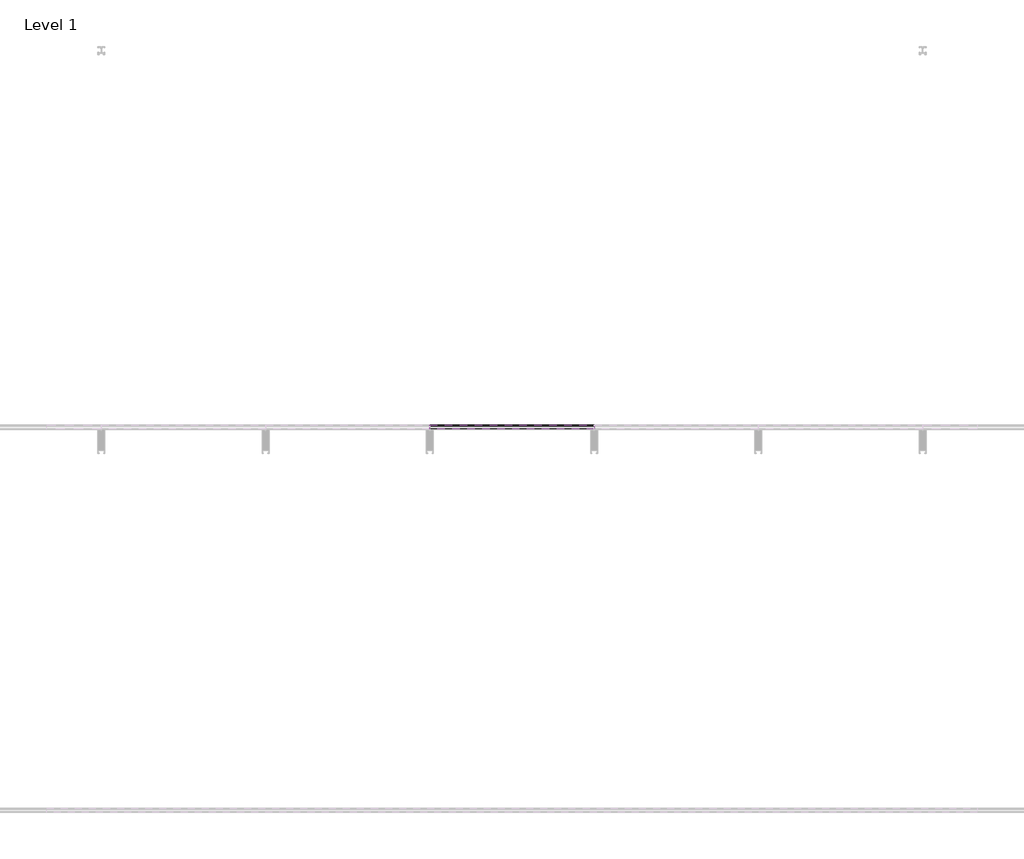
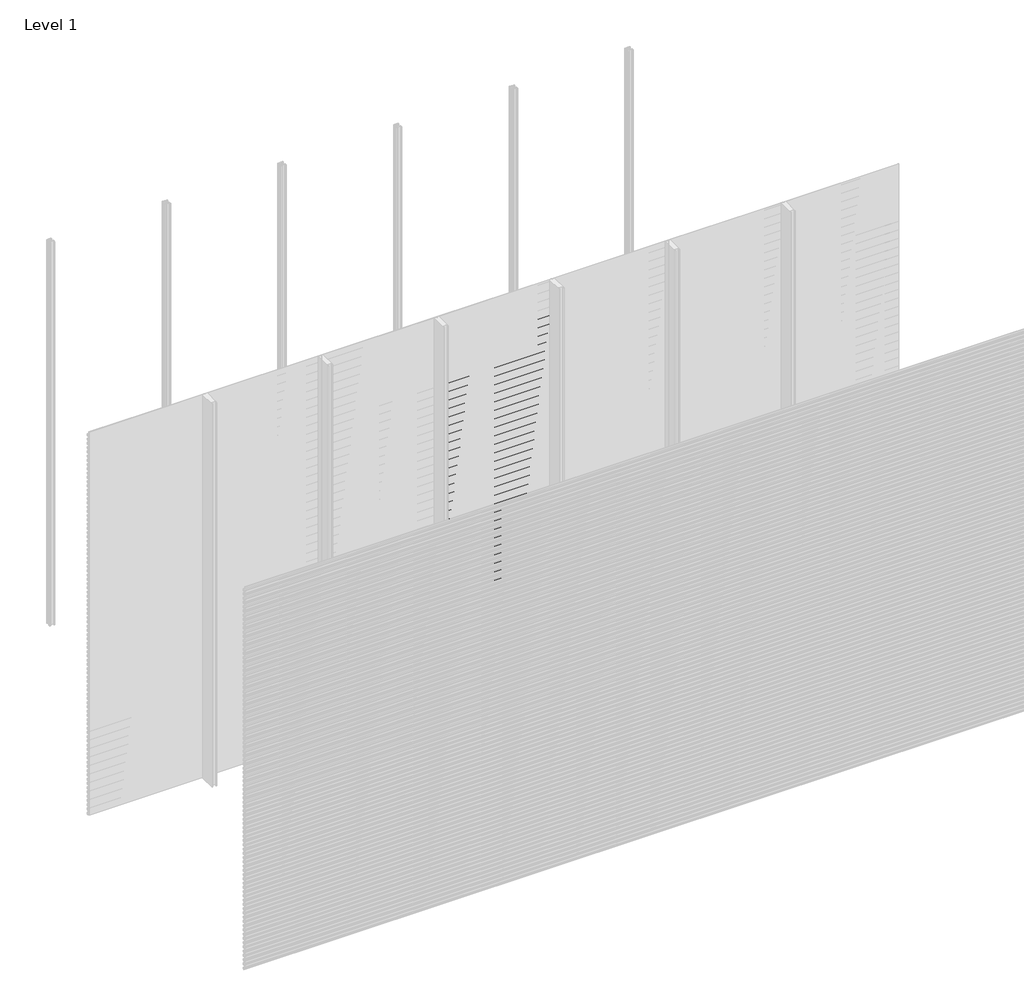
# One storey, part 18 of 96: 77 proxies.
"""IFC4 building model written with IfcOpenShell, lengths in millimetres."""

from ifc_helpers import new_model, si_unit, frame, origin, place, context, project, spatial, polyline, outline, extrude, element, save

model = new_model("IFC4")

# Units and contexts
model_context = context("Model", 3, world=origin())
ifc_project = project(units=[si_unit("LENGTHUNIT", "METRE", prefix="MILLI")], contexts=[model_context])

# Site, building, storey
site = spatial("IfcSite", under=ifc_project)
building = spatial("IfcBuilding", under=site)
storey = spatial("IfcBuildingStorey", under=building, Name="Level 1", Elevation=0.0)

# Proxies
placement = place(None, origin())
element("IfcBuildingElementProxy", 1, Name="Wall Sweeps", at=placement, inside=storey, context=model_context, shape_type="SweptSolid", body=[
    extrude(outline(polyline([(-47977.6, 2705.3655033), (-47977.6, 2691.0779188), (-47982.4114965, 2688.3), (-47982.4114965, 2689.5701706), (-47978.85, 2691.6264016), (-47978.85, 2704.6437382), (-47998.0, 2715.7000799), (-47998.0, 2730.6), (-47996.75, 2730.6), (-47996.75, 2716.4217609), (-47977.6, 2705.3655033)])), frame((2571.4285714, 0.0, 0.0), z_axis=(1.0, 0.0, 0.0), x_axis=(0.0, 1.0, 0.0)), (0.0, 0.0, 1.0), 857.1428571),
])
element("IfcBuildingElementProxy", 2, Name="Wall Sweeps", at=placement, inside=storey, context=model_context, shape_type="SweptSolid", body=[
    extrude(outline(polyline([(-47977.6, 2672.0655033), (-47977.6, 2657.7779188), (-47982.4114965, 2655.0), (-47982.4114965, 2656.2701706), (-47978.85, 2658.3264016), (-47978.85, 2671.3437382), (-47998.0, 2682.4000799), (-47998.0, 2697.3), (-47996.75, 2697.3), (-47996.75, 2683.1217609), (-47977.6, 2672.0655033)])), frame((2571.4285714, 0.0, 0.0), z_axis=(1.0, 0.0, 0.0), x_axis=(0.0, 1.0, 0.0)), (0.0, 0.0, 1.0), 857.1428571),
])
element("IfcBuildingElementProxy", 3, Name="Wall Sweeps", at=placement, inside=storey, context=model_context, shape_type="SweptSolid", body=[
    extrude(outline(polyline([(-47977.6, 2638.7655033), (-47977.6, 2624.4779188), (-47982.4114965, 2621.7), (-47982.4114965, 2622.9701706), (-47978.85, 2625.0264016), (-47978.85, 2638.0437382), (-47998.0, 2649.1000799), (-47998.0, 2664.0), (-47996.75, 2664.0), (-47996.75, 2649.8217609), (-47977.6, 2638.7655033)])), frame((2571.4285714, 0.0, 0.0), z_axis=(1.0, 0.0, 0.0), x_axis=(0.0, 1.0, 0.0)), (0.0, 0.0, 1.0), 857.1428571),
])
element("IfcBuildingElementProxy", 4, Name="Wall Sweeps", at=placement, inside=storey, context=model_context, shape_type="SweptSolid", body=[
    extrude(outline(polyline([(-47977.6, 2605.4655033), (-47977.6, 2591.1779188), (-47982.4114965, 2588.4), (-47982.4114965, 2589.6701706), (-47978.85, 2591.7264016), (-47978.85, 2604.7437382), (-47998.0, 2615.8000799), (-47998.0, 2630.7), (-47996.75, 2630.7), (-47996.75, 2616.5217609), (-47977.6, 2605.4655033)])), frame((2571.4285714, 0.0, 0.0), z_axis=(1.0, 0.0, 0.0), x_axis=(0.0, 1.0, 0.0)), (0.0, 0.0, 1.0), 857.1428571),
])
element("IfcBuildingElementProxy", 5, Name="Wall Sweeps", at=placement, inside=storey, context=model_context, shape_type="SweptSolid", body=[
    extrude(outline(polyline([(-47977.6, 2572.1655033), (-47977.6, 2557.8779188), (-47982.4114965, 2555.1), (-47982.4114965, 2556.3701706), (-47978.85, 2558.4264016), (-47978.85, 2571.4437382), (-47998.0, 2582.5000799), (-47998.0, 2597.4), (-47996.75, 2597.4), (-47996.75, 2583.2217609), (-47977.6, 2572.1655033)])), frame((2571.4285714, 0.0, 0.0), z_axis=(1.0, 0.0, 0.0), x_axis=(0.0, 1.0, 0.0)), (0.0, 0.0, 1.0), 857.1428571),
])
element("IfcBuildingElementProxy", 6, Name="Wall Sweeps", at=placement, inside=storey, context=model_context, shape_type="SweptSolid", body=[
    extrude(outline(polyline([(-47977.6, 2538.8655033), (-47977.6, 2524.5779188), (-47982.4114965, 2521.8), (-47982.4114965, 2523.0701706), (-47978.85, 2525.1264016), (-47978.85, 2538.1437382), (-47998.0, 2549.2000799), (-47998.0, 2564.1), (-47996.75, 2564.1), (-47996.75, 2549.9217609), (-47977.6, 2538.8655033)])), frame((2571.4285714, 0.0, 0.0), z_axis=(1.0, 0.0, 0.0), x_axis=(0.0, 1.0, 0.0)), (0.0, 0.0, 1.0), 857.1428571),
])
element("IfcBuildingElementProxy", 7, Name="Wall Sweeps", at=placement, inside=storey, context=model_context, shape_type="SweptSolid", body=[
    extrude(outline(polyline([(-47977.6, 2505.5655033), (-47977.6, 2491.2779188), (-47982.4114965, 2488.5), (-47982.4114965, 2489.7701706), (-47978.85, 2491.8264016), (-47978.85, 2504.8437382), (-47998.0, 2515.9000799), (-47998.0, 2530.8), (-47996.75, 2530.8), (-47996.75, 2516.6217609), (-47977.6, 2505.5655033)])), frame((2571.4285714, 0.0, 0.0), z_axis=(1.0, 0.0, 0.0), x_axis=(0.0, 1.0, 0.0)), (0.0, 0.0, 1.0), 857.1428571),
])
element("IfcBuildingElementProxy", 8, Name="Wall Sweeps", at=placement, inside=storey, context=model_context, shape_type="SweptSolid", body=[
    extrude(outline(polyline([(-47977.6, 2472.2655033), (-47977.6, 2457.9779188), (-47982.4114965, 2455.2), (-47982.4114965, 2456.4701706), (-47978.85, 2458.5264016), (-47978.85, 2471.5437382), (-47998.0, 2482.6000799), (-47998.0, 2497.5), (-47996.75, 2497.5), (-47996.75, 2483.3217609), (-47977.6, 2472.2655033)])), frame((2571.4285714, 0.0, 0.0), z_axis=(1.0, 0.0, 0.0), x_axis=(0.0, 1.0, 0.0)), (0.0, 0.0, 1.0), 857.1428571),
])
element("IfcBuildingElementProxy", 9, Name="Wall Sweeps", at=placement, inside=storey, context=model_context, shape_type="SweptSolid", body=[
    extrude(outline(polyline([(-47977.6, 2438.9655033), (-47977.6, 2424.6779188), (-47982.4114965, 2421.9), (-47982.4114965, 2423.1701706), (-47978.85, 2425.2264016), (-47978.85, 2438.2437382), (-47998.0, 2449.3000799), (-47998.0, 2464.2), (-47996.75, 2464.2), (-47996.75, 2450.0217609), (-47977.6, 2438.9655033)])), frame((2571.4285714, 0.0, 0.0), z_axis=(1.0, 0.0, 0.0), x_axis=(0.0, 1.0, 0.0)), (0.0, 0.0, 1.0), 857.1428571),
])
element("IfcBuildingElementProxy", 10, Name="Wall Sweeps", at=placement, inside=storey, context=model_context, shape_type="SweptSolid", body=[
    extrude(outline(polyline([(-47977.6, 2405.6655033), (-47977.6, 2391.3779188), (-47982.4114965, 2388.6), (-47982.4114965, 2389.8701706), (-47978.85, 2391.9264016), (-47978.85, 2404.9437382), (-47998.0, 2416.0000799), (-47998.0, 2430.9), (-47996.75, 2430.9), (-47996.75, 2416.7217609), (-47977.6, 2405.6655033)])), frame((2571.4285714, 0.0, 0.0), z_axis=(1.0, 0.0, 0.0), x_axis=(0.0, 1.0, 0.0)), (0.0, 0.0, 1.0), 857.1428571),
])
element("IfcBuildingElementProxy", 11, Name="Wall Sweeps", at=placement, inside=storey, context=model_context, shape_type="SweptSolid", body=[
    extrude(outline(polyline([(-47977.6, 2372.3655033), (-47977.6, 2358.0779188), (-47982.4114965, 2355.3), (-47982.4114965, 2356.5701706), (-47978.85, 2358.6264016), (-47978.85, 2371.6437382), (-47998.0, 2382.7000799), (-47998.0, 2397.6), (-47996.75, 2397.6), (-47996.75, 2383.4217609), (-47977.6, 2372.3655033)])), frame((2571.4285714, 0.0, 0.0), z_axis=(1.0, 0.0, 0.0), x_axis=(0.0, 1.0, 0.0)), (0.0, 0.0, 1.0), 857.1428571),
])
element("IfcBuildingElementProxy", 12, Name="Wall Sweeps", at=placement, inside=storey, context=model_context, shape_type="SweptSolid", body=[
    extrude(outline(polyline([(-47977.6, 2339.0655033), (-47977.6, 2324.7779188), (-47982.4114965, 2322.0), (-47982.4114965, 2323.2701706), (-47978.85, 2325.3264016), (-47978.85, 2338.3437382), (-47998.0, 2349.4000799), (-47998.0, 2364.3), (-47996.75, 2364.3), (-47996.75, 2350.1217609), (-47977.6, 2339.0655033)])), frame((2571.4285714, 0.0, 0.0), z_axis=(1.0, 0.0, 0.0), x_axis=(0.0, 1.0, 0.0)), (0.0, 0.0, 1.0), 857.1428571),
])
element("IfcBuildingElementProxy", 13, Name="Wall Sweeps", at=placement, inside=storey, context=model_context, shape_type="SweptSolid", body=[
    extrude(outline(polyline([(-47977.6, 2305.7655033), (-47977.6, 2291.4779188), (-47982.4114965, 2288.7), (-47982.4114965, 2289.9701706), (-47978.85, 2292.0264016), (-47978.85, 2305.0437382), (-47998.0, 2316.1000799), (-47998.0, 2331.0), (-47996.75, 2331.0), (-47996.75, 2316.8217609), (-47977.6, 2305.7655033)])), frame((2571.4285714, 0.0, 0.0), z_axis=(1.0, 0.0, 0.0), x_axis=(0.0, 1.0, 0.0)), (0.0, 0.0, 1.0), 857.1428571),
])
element("IfcBuildingElementProxy", 14, Name="Wall Sweeps", at=placement, inside=storey, context=model_context, shape_type="SweptSolid", body=[
    extrude(outline(polyline([(-47977.6, 2272.4655033), (-47977.6, 2258.1779188), (-47982.4114965, 2255.4), (-47982.4114965, 2256.6701706), (-47978.85, 2258.7264016), (-47978.85, 2271.7437382), (-47998.0, 2282.8000799), (-47998.0, 2297.7), (-47996.75, 2297.7), (-47996.75, 2283.5217609), (-47977.6, 2272.4655033)])), frame((2571.4285714, 0.0, 0.0), z_axis=(1.0, 0.0, 0.0), x_axis=(0.0, 1.0, 0.0)), (0.0, 0.0, 1.0), 857.1428571),
])
element("IfcBuildingElementProxy", 15, Name="Wall Sweeps", at=placement, inside=storey, context=model_context, shape_type="SweptSolid", body=[
    extrude(outline(polyline([(-47977.6, 2239.1655033), (-47977.6, 2224.8779188), (-47982.4114965, 2222.1), (-47982.4114965, 2223.3701706), (-47978.85, 2225.4264016), (-47978.85, 2238.4437382), (-47998.0, 2249.5000799), (-47998.0, 2264.4), (-47996.75, 2264.4), (-47996.75, 2250.2217609), (-47977.6, 2239.1655033)])), frame((2571.4285714, 0.0, 0.0), z_axis=(1.0, 0.0, 0.0), x_axis=(0.0, 1.0, 0.0)), (0.0, 0.0, 1.0), 857.1428571),
])
element("IfcBuildingElementProxy", 16, Name="Wall Sweeps", at=placement, inside=storey, context=model_context, shape_type="SweptSolid", body=[
    extrude(outline(polyline([(-47977.6, 2205.8655033), (-47977.6, 2191.5779188), (-47982.4114965, 2188.8), (-47982.4114965, 2190.0701706), (-47978.85, 2192.1264016), (-47978.85, 2205.1437382), (-47998.0, 2216.2000799), (-47998.0, 2231.1), (-47996.75, 2231.1), (-47996.75, 2216.9217609), (-47977.6, 2205.8655033)])), frame((2571.4285714, 0.0, 0.0), z_axis=(1.0, 0.0, 0.0), x_axis=(0.0, 1.0, 0.0)), (0.0, 0.0, 1.0), 857.1428571),
])
element("IfcBuildingElementProxy", 17, Name="Wall Sweeps", at=placement, inside=storey, context=model_context, shape_type="SweptSolid", body=[
    extrude(outline(polyline([(-47977.6, 2172.5655033), (-47977.6, 2158.2779188), (-47982.4114965, 2155.5), (-47982.4114965, 2156.7701706), (-47978.85, 2158.8264016), (-47978.85, 2171.8437382), (-47998.0, 2182.9000799), (-47998.0, 2197.8), (-47996.75, 2197.8), (-47996.75, 2183.6217609), (-47977.6, 2172.5655033)])), frame((2571.4285714, 0.0, 0.0), z_axis=(1.0, 0.0, 0.0), x_axis=(0.0, 1.0, 0.0)), (0.0, 0.0, 1.0), 857.1428571),
])
element("IfcBuildingElementProxy", 18, Name="Wall Sweeps", at=placement, inside=storey, context=model_context, shape_type="SweptSolid", body=[
    extrude(outline(polyline([(-47977.6, 2139.2655033), (-47977.6, 2124.9779188), (-47982.4114965, 2122.2), (-47982.4114965, 2123.4701706), (-47978.85, 2125.5264016), (-47978.85, 2138.5437382), (-47998.0, 2149.6000799), (-47998.0, 2164.5), (-47996.75, 2164.5), (-47996.75, 2150.3217609), (-47977.6, 2139.2655033)])), frame((2571.4285714, 0.0, 0.0), z_axis=(1.0, 0.0, 0.0), x_axis=(0.0, 1.0, 0.0)), (0.0, 0.0, 1.0), 857.1428571),
])
element("IfcBuildingElementProxy", 19, Name="Wall Sweeps", at=placement, inside=storey, context=model_context, shape_type="SweptSolid", body=[
    extrude(outline(polyline([(-47977.6, 2105.9655033), (-47977.6, 2091.6779188), (-47982.4114965, 2088.9), (-47982.4114965, 2090.1701706), (-47978.85, 2092.2264016), (-47978.85, 2105.2437382), (-47998.0, 2116.3000799), (-47998.0, 2131.2), (-47996.75, 2131.2), (-47996.75, 2117.0217609), (-47977.6, 2105.9655033)])), frame((2571.4285714, 0.0, 0.0), z_axis=(1.0, 0.0, 0.0), x_axis=(0.0, 1.0, 0.0)), (0.0, 0.0, 1.0), 857.1428571),
])
element("IfcBuildingElementProxy", 20, Name="Wall Sweeps", at=placement, inside=storey, context=model_context, shape_type="SweptSolid", body=[
    extrude(outline(polyline([(-47977.6, 2072.6655033), (-47977.6, 2058.3779188), (-47982.4114965, 2055.6), (-47982.4114965, 2056.8701706), (-47978.85, 2058.9264016), (-47978.85, 2071.9437382), (-47998.0, 2083.0000799), (-47998.0, 2097.9), (-47996.75, 2097.9), (-47996.75, 2083.7217609), (-47977.6, 2072.6655033)])), frame((2571.4285714, 0.0, 0.0), z_axis=(1.0, 0.0, 0.0), x_axis=(0.0, 1.0, 0.0)), (0.0, 0.0, 1.0), 857.1428571),
])
element("IfcBuildingElementProxy", 21, Name="Wall Sweeps", at=placement, inside=storey, context=model_context, shape_type="SweptSolid", body=[
    extrude(outline(polyline([(-47977.6, 2039.3655033), (-47977.6, 2025.0779188), (-47982.4114965, 2022.3), (-47982.4114965, 2023.5701706), (-47978.85, 2025.6264016), (-47978.85, 2038.6437382), (-47998.0, 2049.7000799), (-47998.0, 2064.6), (-47996.75, 2064.6), (-47996.75, 2050.4217609), (-47977.6, 2039.3655033)])), frame((2571.4285714, 0.0, 0.0), z_axis=(1.0, 0.0, 0.0), x_axis=(0.0, 1.0, 0.0)), (0.0, 0.0, 1.0), 857.1428571),
])
element("IfcBuildingElementProxy", 22, Name="Wall Sweeps", at=placement, inside=storey, context=model_context, shape_type="SweptSolid", body=[
    extrude(outline(polyline([(-47977.6, 2006.0655033), (-47977.6, 1991.7779188), (-47982.4114965, 1989.0), (-47982.4114965, 1990.2701706), (-47978.85, 1992.3264016), (-47978.85, 2005.3437382), (-47998.0, 2016.4000799), (-47998.0, 2031.3), (-47996.75, 2031.3), (-47996.75, 2017.1217609), (-47977.6, 2006.0655033)])), frame((2571.4285714, 0.0, 0.0), z_axis=(1.0, 0.0, 0.0), x_axis=(0.0, 1.0, 0.0)), (0.0, 0.0, 1.0), 857.1428571),
])
element("IfcBuildingElementProxy", 23, Name="Wall Sweeps", at=placement, inside=storey, context=model_context, shape_type="SweptSolid", body=[
    extrude(outline(polyline([(-47977.6, 1972.7655033), (-47977.6, 1958.4779188), (-47982.4114965, 1955.7), (-47982.4114965, 1956.9701706), (-47978.85, 1959.0264016), (-47978.85, 1972.0437382), (-47998.0, 1983.1000799), (-47998.0, 1998.0), (-47996.75, 1998.0), (-47996.75, 1983.8217609), (-47977.6, 1972.7655033)])), frame((2571.4285714, 0.0, 0.0), z_axis=(1.0, 0.0, 0.0), x_axis=(0.0, 1.0, 0.0)), (0.0, 0.0, 1.0), 857.1428571),
])
element("IfcBuildingElementProxy", 24, Name="Wall Sweeps", at=placement, inside=storey, context=model_context, shape_type="SweptSolid", body=[
    extrude(outline(polyline([(-47977.6, 1939.4655033), (-47977.6, 1925.1779188), (-47982.4114965, 1922.4), (-47982.4114965, 1923.6701706), (-47978.85, 1925.7264016), (-47978.85, 1938.7437382), (-47998.0, 1949.8000799), (-47998.0, 1964.7), (-47996.75, 1964.7), (-47996.75, 1950.5217609), (-47977.6, 1939.4655033)])), frame((2571.4285714, 0.0, 0.0), z_axis=(1.0, 0.0, 0.0), x_axis=(0.0, 1.0, 0.0)), (0.0, 0.0, 1.0), 857.1428571),
])
element("IfcBuildingElementProxy", 25, Name="Wall Sweeps", at=placement, inside=storey, context=model_context, shape_type="SweptSolid", body=[
    extrude(outline(polyline([(-47977.6, 1906.1655033), (-47977.6, 1891.8779188), (-47982.4114965, 1889.1), (-47982.4114965, 1890.3701706), (-47978.85, 1892.4264016), (-47978.85, 1905.4437382), (-47998.0, 1916.5000799), (-47998.0, 1931.4), (-47996.75, 1931.4), (-47996.75, 1917.2217609), (-47977.6, 1906.1655033)])), frame((2571.4285714, 0.0, 0.0), z_axis=(1.0, 0.0, 0.0), x_axis=(0.0, 1.0, 0.0)), (0.0, 0.0, 1.0), 857.1428571),
])
element("IfcBuildingElementProxy", 26, Name="Wall Sweeps", at=placement, inside=storey, context=model_context, shape_type="SweptSolid", body=[
    extrude(outline(polyline([(-47977.6, 1872.8655033), (-47977.6, 1858.5779188), (-47982.4114965, 1855.8), (-47982.4114965, 1857.0701706), (-47978.85, 1859.1264016), (-47978.85, 1872.1437382), (-47998.0, 1883.2000799), (-47998.0, 1898.1), (-47996.75, 1898.1), (-47996.75, 1883.9217609), (-47977.6, 1872.8655033)])), frame((2571.4285714, 0.0, 0.0), z_axis=(1.0, 0.0, 0.0), x_axis=(0.0, 1.0, 0.0)), (0.0, 0.0, 1.0), 857.1428571),
])
element("IfcBuildingElementProxy", 27, Name="Wall Sweeps", at=placement, inside=storey, context=model_context, shape_type="SweptSolid", body=[
    extrude(outline(polyline([(-47977.6, 1839.5655033), (-47977.6, 1825.2779188), (-47982.4114965, 1822.5), (-47982.4114965, 1823.7701706), (-47978.85, 1825.8264016), (-47978.85, 1838.8437382), (-47998.0, 1849.9000799), (-47998.0, 1864.8), (-47996.75, 1864.8), (-47996.75, 1850.6217609), (-47977.6, 1839.5655033)])), frame((2571.4285714, 0.0, 0.0), z_axis=(1.0, 0.0, 0.0), x_axis=(0.0, 1.0, 0.0)), (0.0, 0.0, 1.0), 857.1428571),
])
element("IfcBuildingElementProxy", 28, Name="Wall Sweeps", at=placement, inside=storey, context=model_context, shape_type="SweptSolid", body=[
    extrude(outline(polyline([(-47977.6, 1806.2655033), (-47977.6, 1791.9779188), (-47982.4114965, 1789.2), (-47982.4114965, 1790.4701706), (-47978.85, 1792.5264016), (-47978.85, 1805.5437382), (-47998.0, 1816.6000799), (-47998.0, 1831.5), (-47996.75, 1831.5), (-47996.75, 1817.3217609), (-47977.6, 1806.2655033)])), frame((2571.4285714, 0.0, 0.0), z_axis=(1.0, 0.0, 0.0), x_axis=(0.0, 1.0, 0.0)), (0.0, 0.0, 1.0), 857.1428571),
])
element("IfcBuildingElementProxy", 29, Name="Wall Sweeps", at=placement, inside=storey, context=model_context, shape_type="SweptSolid", body=[
    extrude(outline(polyline([(-47977.6, 1772.9655033), (-47977.6, 1758.6779188), (-47982.4114965, 1755.9), (-47982.4114965, 1757.1701706), (-47978.85, 1759.2264016), (-47978.85, 1772.2437382), (-47998.0, 1783.3000799), (-47998.0, 1798.2), (-47996.75, 1798.2), (-47996.75, 1784.0217609), (-47977.6, 1772.9655033)])), frame((2571.4285714, 0.0, 0.0), z_axis=(1.0, 0.0, 0.0), x_axis=(0.0, 1.0, 0.0)), (0.0, 0.0, 1.0), 857.1428571),
])
element("IfcBuildingElementProxy", 30, Name="Wall Sweeps", at=placement, inside=storey, context=model_context, shape_type="SweptSolid", body=[
    extrude(outline(polyline([(-47977.6, 1739.6655033), (-47977.6, 1725.3779188), (-47982.4114965, 1722.6), (-47982.4114965, 1723.8701706), (-47978.85, 1725.9264016), (-47978.85, 1738.9437382), (-47998.0, 1750.0000799), (-47998.0, 1764.9), (-47996.75, 1764.9), (-47996.75, 1750.7217609), (-47977.6, 1739.6655033)])), frame((2571.4285714, 0.0, 0.0), z_axis=(1.0, 0.0, 0.0), x_axis=(0.0, 1.0, 0.0)), (0.0, 0.0, 1.0), 857.1428571),
])
element("IfcBuildingElementProxy", 31, Name="Wall Sweeps", at=placement, inside=storey, context=model_context, shape_type="SweptSolid", body=[
    extrude(outline(polyline([(-47977.6, 1706.3655033), (-47977.6, 1692.0779188), (-47982.4114965, 1689.3), (-47982.4114965, 1690.5701706), (-47978.85, 1692.6264016), (-47978.85, 1705.6437382), (-47998.0, 1716.7000799), (-47998.0, 1731.6), (-47996.75, 1731.6), (-47996.75, 1717.4217609), (-47977.6, 1706.3655033)])), frame((2571.4285714, 0.0, 0.0), z_axis=(1.0, 0.0, 0.0), x_axis=(0.0, 1.0, 0.0)), (0.0, 0.0, 1.0), 857.1428571),
])
element("IfcBuildingElementProxy", 32, Name="Wall Sweeps", at=placement, inside=storey, context=model_context, shape_type="SweptSolid", body=[
    extrude(outline(polyline([(-47977.6, 1673.0655033), (-47977.6, 1658.7779188), (-47982.4114965, 1656.0), (-47982.4114965, 1657.2701706), (-47978.85, 1659.3264016), (-47978.85, 1672.3437382), (-47998.0, 1683.4000799), (-47998.0, 1698.3), (-47996.75, 1698.3), (-47996.75, 1684.1217609), (-47977.6, 1673.0655033)])), frame((2571.4285714, 0.0, 0.0), z_axis=(1.0, 0.0, 0.0), x_axis=(0.0, 1.0, 0.0)), (0.0, 0.0, 1.0), 857.1428571),
])
element("IfcBuildingElementProxy", 33, Name="Wall Sweeps", at=placement, inside=storey, context=model_context, shape_type="SweptSolid", body=[
    extrude(outline(polyline([(-47977.6, 1639.7655033), (-47977.6, 1625.4779188), (-47982.4114965, 1622.7), (-47982.4114965, 1623.9701706), (-47978.85, 1626.0264016), (-47978.85, 1639.0437382), (-47998.0, 1650.1000799), (-47998.0, 1665.0), (-47996.75, 1665.0), (-47996.75, 1650.8217609), (-47977.6, 1639.7655033)])), frame((2571.4285714, 0.0, 0.0), z_axis=(1.0, 0.0, 0.0), x_axis=(0.0, 1.0, 0.0)), (0.0, 0.0, 1.0), 857.1428571),
])
element("IfcBuildingElementProxy", 34, Name="Wall Sweeps", at=placement, inside=storey, context=model_context, shape_type="SweptSolid", body=[
    extrude(outline(polyline([(-47977.6, 1606.4655033), (-47977.6, 1592.1779188), (-47982.4114965, 1589.4), (-47982.4114965, 1590.6701706), (-47978.85, 1592.7264016), (-47978.85, 1605.7437382), (-47998.0, 1616.8000799), (-47998.0, 1631.7), (-47996.75, 1631.7), (-47996.75, 1617.5217609), (-47977.6, 1606.4655033)])), frame((2571.4285714, 0.0, 0.0), z_axis=(1.0, 0.0, 0.0), x_axis=(0.0, 1.0, 0.0)), (0.0, 0.0, 1.0), 857.1428571),
])
element("IfcBuildingElementProxy", 35, Name="Wall Sweeps", at=placement, inside=storey, context=model_context, shape_type="SweptSolid", body=[
    extrude(outline(polyline([(-47977.6, 1573.1655033), (-47977.6, 1558.8779188), (-47982.4114965, 1556.1), (-47982.4114965, 1557.3701706), (-47978.85, 1559.4264016), (-47978.85, 1572.4437382), (-47998.0, 1583.5000799), (-47998.0, 1598.4), (-47996.75, 1598.4), (-47996.75, 1584.2217609), (-47977.6, 1573.1655033)])), frame((2571.4285714, 0.0, 0.0), z_axis=(1.0, 0.0, 0.0), x_axis=(0.0, 1.0, 0.0)), (0.0, 0.0, 1.0), 857.1428571),
])
element("IfcBuildingElementProxy", 36, Name="Wall Sweeps", at=placement, inside=storey, context=model_context, shape_type="SweptSolid", body=[
    extrude(outline(polyline([(-47977.6, 1539.8655033), (-47977.6, 1525.5779188), (-47982.4114965, 1522.8), (-47982.4114965, 1524.0701706), (-47978.85, 1526.1264016), (-47978.85, 1539.1437382), (-47998.0, 1550.2000799), (-47998.0, 1565.1), (-47996.75, 1565.1), (-47996.75, 1550.9217609), (-47977.6, 1539.8655033)])), frame((2571.4285714, 0.0, 0.0), z_axis=(1.0, 0.0, 0.0), x_axis=(0.0, 1.0, 0.0)), (0.0, 0.0, 1.0), 857.1428571),
])
element("IfcBuildingElementProxy", 37, Name="Wall Sweeps", at=placement, inside=storey, context=model_context, shape_type="SweptSolid", body=[
    extrude(outline(polyline([(-47977.6, 1506.5655033), (-47977.6, 1492.2779188), (-47982.4114965, 1489.5), (-47982.4114965, 1490.7701706), (-47978.85, 1492.8264016), (-47978.85, 1505.8437382), (-47998.0, 1516.9000799), (-47998.0, 1531.8), (-47996.75, 1531.8), (-47996.75, 1517.6217609), (-47977.6, 1506.5655033)])), frame((2571.4285714, 0.0, 0.0), z_axis=(1.0, 0.0, 0.0), x_axis=(0.0, 1.0, 0.0)), (0.0, 0.0, 1.0), 857.1428571),
])
element("IfcBuildingElementProxy", 38, Name="Wall Sweeps", at=placement, inside=storey, context=model_context, shape_type="SweptSolid", body=[
    extrude(outline(polyline([(-47977.6, 1473.2655033), (-47977.6, 1458.9779188), (-47982.4114965, 1456.2), (-47982.4114965, 1457.4701706), (-47978.85, 1459.5264016), (-47978.85, 1472.5437382), (-47998.0, 1483.6000799), (-47998.0, 1498.5), (-47996.75, 1498.5), (-47996.75, 1484.3217609), (-47977.6, 1473.2655033)])), frame((2571.4285714, 0.0, 0.0), z_axis=(1.0, 0.0, 0.0), x_axis=(0.0, 1.0, 0.0)), (0.0, 0.0, 1.0), 857.1428571),
])
element("IfcBuildingElementProxy", 39, Name="Wall Sweeps", at=placement, inside=storey, context=model_context, shape_type="SweptSolid", body=[
    extrude(outline(polyline([(-47977.6, 1439.9655033), (-47977.6, 1425.6779188), (-47982.4114965, 1422.9), (-47982.4114965, 1424.1701706), (-47978.85, 1426.2264016), (-47978.85, 1439.2437382), (-47998.0, 1450.3000799), (-47998.0, 1465.2), (-47996.75, 1465.2), (-47996.75, 1451.0217609), (-47977.6, 1439.9655033)])), frame((2571.4285714, 0.0, 0.0), z_axis=(1.0, 0.0, 0.0), x_axis=(0.0, 1.0, 0.0)), (0.0, 0.0, 1.0), 857.1428571),
])
element("IfcBuildingElementProxy", 40, Name="Wall Sweeps", at=placement, inside=storey, context=model_context, shape_type="SweptSolid", body=[
    extrude(outline(polyline([(-47977.6, 1406.6655033), (-47977.6, 1392.3779188), (-47982.4114965, 1389.6), (-47982.4114965, 1390.8701706), (-47978.85, 1392.9264016), (-47978.85, 1405.9437382), (-47998.0, 1417.0000799), (-47998.0, 1431.9), (-47996.75, 1431.9), (-47996.75, 1417.7217609), (-47977.6, 1406.6655033)])), frame((2571.4285714, 0.0, 0.0), z_axis=(1.0, 0.0, 0.0), x_axis=(0.0, 1.0, 0.0)), (0.0, 0.0, 1.0), 857.1428571),
])
element("IfcBuildingElementProxy", 41, Name="Wall Sweeps", at=placement, inside=storey, context=model_context, shape_type="SweptSolid", body=[
    extrude(outline(polyline([(-47977.6, 1373.3655033), (-47977.6, 1359.0779188), (-47982.4114965, 1356.3), (-47982.4114965, 1357.5701706), (-47978.85, 1359.6264016), (-47978.85, 1372.6437382), (-47998.0, 1383.7000799), (-47998.0, 1398.6), (-47996.75, 1398.6), (-47996.75, 1384.4217609), (-47977.6, 1373.3655033)])), frame((2571.4285714, 0.0, 0.0), z_axis=(1.0, 0.0, 0.0), x_axis=(0.0, 1.0, 0.0)), (0.0, 0.0, 1.0), 857.1428571),
])
element("IfcBuildingElementProxy", 42, Name="Wall Sweeps", at=placement, inside=storey, context=model_context, shape_type="SweptSolid", body=[
    extrude(outline(polyline([(-47977.6, 1340.0655033), (-47977.6, 1325.7779188), (-47982.4114965, 1323.0), (-47982.4114965, 1324.2701706), (-47978.85, 1326.3264016), (-47978.85, 1339.3437382), (-47998.0, 1350.4000799), (-47998.0, 1365.3), (-47996.75, 1365.3), (-47996.75, 1351.1217609), (-47977.6, 1340.0655033)])), frame((2571.4285714, 0.0, 0.0), z_axis=(1.0, 0.0, 0.0), x_axis=(0.0, 1.0, 0.0)), (0.0, 0.0, 1.0), 857.1428571),
])
element("IfcBuildingElementProxy", 43, Name="Wall Sweeps", at=placement, inside=storey, context=model_context, shape_type="SweptSolid", body=[
    extrude(outline(polyline([(-47977.6, 1306.7655033), (-47977.6, 1292.4779188), (-47982.4114965, 1289.7), (-47982.4114965, 1290.9701706), (-47978.85, 1293.0264016), (-47978.85, 1306.0437382), (-47998.0, 1317.1000799), (-47998.0, 1332.0), (-47996.75, 1332.0), (-47996.75, 1317.8217609), (-47977.6, 1306.7655033)])), frame((2571.4285714, 0.0, 0.0), z_axis=(1.0, 0.0, 0.0), x_axis=(0.0, 1.0, 0.0)), (0.0, 0.0, 1.0), 857.1428571),
])
element("IfcBuildingElementProxy", 44, Name="Wall Sweeps", at=placement, inside=storey, context=model_context, shape_type="SweptSolid", body=[
    extrude(outline(polyline([(-47977.6, 1273.4655033), (-47977.6, 1259.1779188), (-47982.4114965, 1256.4), (-47982.4114965, 1257.6701706), (-47978.85, 1259.7264016), (-47978.85, 1272.7437382), (-47998.0, 1283.8000799), (-47998.0, 1298.7), (-47996.75, 1298.7), (-47996.75, 1284.5217609), (-47977.6, 1273.4655033)])), frame((2571.4285714, 0.0, 0.0), z_axis=(1.0, 0.0, 0.0), x_axis=(0.0, 1.0, 0.0)), (0.0, 0.0, 1.0), 857.1428571),
])
element("IfcBuildingElementProxy", 45, Name="Wall Sweeps", at=placement, inside=storey, context=model_context, shape_type="SweptSolid", body=[
    extrude(outline(polyline([(-47977.6, 1240.1655033), (-47977.6, 1225.8779188), (-47982.4114965, 1223.1), (-47982.4114965, 1224.3701706), (-47978.85, 1226.4264016), (-47978.85, 1239.4437382), (-47998.0, 1250.5000799), (-47998.0, 1265.4), (-47996.75, 1265.4), (-47996.75, 1251.2217609), (-47977.6, 1240.1655033)])), frame((2571.4285714, 0.0, 0.0), z_axis=(1.0, 0.0, 0.0), x_axis=(0.0, 1.0, 0.0)), (0.0, 0.0, 1.0), 857.1428571),
])
element("IfcBuildingElementProxy", 46, Name="Wall Sweeps", at=placement, inside=storey, context=model_context, shape_type="SweptSolid", body=[
    extrude(outline(polyline([(-47977.6, 1206.8655033), (-47977.6, 1192.5779188), (-47982.4114965, 1189.8), (-47982.4114965, 1191.0701706), (-47978.85, 1193.1264016), (-47978.85, 1206.1437382), (-47998.0, 1217.2000799), (-47998.0, 1232.1), (-47996.75, 1232.1), (-47996.75, 1217.9217609), (-47977.6, 1206.8655033)])), frame((2571.4285714, 0.0, 0.0), z_axis=(1.0, 0.0, 0.0), x_axis=(0.0, 1.0, 0.0)), (0.0, 0.0, 1.0), 857.1428571),
])
element("IfcBuildingElementProxy", 47, Name="Wall Sweeps", at=placement, inside=storey, context=model_context, shape_type="SweptSolid", body=[
    extrude(outline(polyline([(-47977.6, 1173.5655033), (-47977.6, 1159.2779188), (-47982.4114965, 1156.5), (-47982.4114965, 1157.7701706), (-47978.85, 1159.8264016), (-47978.85, 1172.8437382), (-47998.0, 1183.9000799), (-47998.0, 1198.8), (-47996.75, 1198.8), (-47996.75, 1184.6217609), (-47977.6, 1173.5655033)])), frame((2571.4285714, 0.0, 0.0), z_axis=(1.0, 0.0, 0.0), x_axis=(0.0, 1.0, 0.0)), (0.0, 0.0, 1.0), 857.1428571),
])
element("IfcBuildingElementProxy", 48, Name="Wall Sweeps", at=placement, inside=storey, context=model_context, shape_type="SweptSolid", body=[
    extrude(outline(polyline([(-47977.6, 1140.2655033), (-47977.6, 1125.9779188), (-47982.4114965, 1123.2), (-47982.4114965, 1124.4701706), (-47978.85, 1126.5264016), (-47978.85, 1139.5437382), (-47998.0, 1150.6000799), (-47998.0, 1165.5), (-47996.75, 1165.5), (-47996.75, 1151.3217609), (-47977.6, 1140.2655033)])), frame((2571.4285714, 0.0, 0.0), z_axis=(1.0, 0.0, 0.0), x_axis=(0.0, 1.0, 0.0)), (0.0, 0.0, 1.0), 857.1428571),
])
element("IfcBuildingElementProxy", 49, Name="Wall Sweeps", at=placement, inside=storey, context=model_context, shape_type="SweptSolid", body=[
    extrude(outline(polyline([(-47977.6, 1106.9655033), (-47977.6, 1092.6779188), (-47982.4114965, 1089.9), (-47982.4114965, 1091.1701706), (-47978.85, 1093.2264016), (-47978.85, 1106.2437382), (-47998.0, 1117.3000799), (-47998.0, 1132.2), (-47996.75, 1132.2), (-47996.75, 1118.0217609), (-47977.6, 1106.9655033)])), frame((2571.4285714, 0.0, 0.0), z_axis=(1.0, 0.0, 0.0), x_axis=(0.0, 1.0, 0.0)), (0.0, 0.0, 1.0), 857.1428571),
])
element("IfcBuildingElementProxy", 50, Name="Wall Sweeps", at=placement, inside=storey, context=model_context, shape_type="SweptSolid", body=[
    extrude(outline(polyline([(-47977.6, 1073.6655033), (-47977.6, 1059.3779188), (-47982.4114965, 1056.6), (-47982.4114965, 1057.8701706), (-47978.85, 1059.9264016), (-47978.85, 1072.9437382), (-47998.0, 1084.0000799), (-47998.0, 1098.9), (-47996.75, 1098.9), (-47996.75, 1084.7217609), (-47977.6, 1073.6655033)])), frame((2571.4285714, 0.0, 0.0), z_axis=(1.0, 0.0, 0.0), x_axis=(0.0, 1.0, 0.0)), (0.0, 0.0, 1.0), 857.1428571),
])
element("IfcBuildingElementProxy", 51, Name="Wall Sweeps", at=placement, inside=storey, context=model_context, shape_type="SweptSolid", body=[
    extrude(outline(polyline([(-47977.6, 1040.3655033), (-47977.6, 1026.0779188), (-47982.4114965, 1023.3), (-47982.4114965, 1024.5701706), (-47978.85, 1026.6264016), (-47978.85, 1039.6437382), (-47998.0, 1050.7000799), (-47998.0, 1065.6), (-47996.75, 1065.6), (-47996.75, 1051.4217609), (-47977.6, 1040.3655033)])), frame((2571.4285714, 0.0, 0.0), z_axis=(1.0, 0.0, 0.0), x_axis=(0.0, 1.0, 0.0)), (0.0, 0.0, 1.0), 857.1428571),
])
element("IfcBuildingElementProxy", 52, Name="Wall Sweeps", at=placement, inside=storey, context=model_context, shape_type="SweptSolid", body=[
    extrude(outline(polyline([(-47977.6, 1007.0655033), (-47977.6, 992.7779188), (-47982.4114965, 990.0), (-47982.4114965, 991.2701706), (-47978.85, 993.3264016), (-47978.85, 1006.3437382), (-47998.0, 1017.4000799), (-47998.0, 1032.3), (-47996.75, 1032.3), (-47996.75, 1018.1217609), (-47977.6, 1007.0655033)])), frame((2571.4285714, 0.0, 0.0), z_axis=(1.0, 0.0, 0.0), x_axis=(0.0, 1.0, 0.0)), (0.0, 0.0, 1.0), 857.1428571),
])
element("IfcBuildingElementProxy", 53, Name="Wall Sweeps", at=placement, inside=storey, context=model_context, shape_type="SweptSolid", body=[
    extrude(outline(polyline([(-47977.6, 973.7655033), (-47977.6, 959.4779188), (-47982.4114965, 956.7), (-47982.4114965, 957.9701706), (-47978.85, 960.0264016), (-47978.85, 973.0437382), (-47998.0, 984.1000799), (-47998.0, 999.0), (-47996.75, 999.0), (-47996.75, 984.8217609), (-47977.6, 973.7655033)])), frame((2571.4285714, 0.0, 0.0), z_axis=(1.0, 0.0, 0.0), x_axis=(0.0, 1.0, 0.0)), (0.0, 0.0, 1.0), 857.1428571),
])
element("IfcBuildingElementProxy", 54, Name="Wall Sweeps", at=placement, inside=storey, context=model_context, shape_type="SweptSolid", body=[
    extrude(outline(polyline([(-47977.6, 940.4655033), (-47977.6, 926.1779188), (-47982.4114965, 923.4), (-47982.4114965, 924.6701706), (-47978.85, 926.7264016), (-47978.85, 939.7437382), (-47998.0, 950.8000799), (-47998.0, 965.7), (-47996.75, 965.7), (-47996.75, 951.5217609), (-47977.6, 940.4655033)])), frame((2571.4285714, 0.0, 0.0), z_axis=(1.0, 0.0, 0.0), x_axis=(0.0, 1.0, 0.0)), (0.0, 0.0, 1.0), 857.1428571),
])
element("IfcBuildingElementProxy", 55, Name="Wall Sweeps", at=placement, inside=storey, context=model_context, shape_type="SweptSolid", body=[
    extrude(outline(polyline([(-47977.6, 907.1655033), (-47977.6, 892.8779188), (-47982.4114965, 890.1), (-47982.4114965, 891.3701706), (-47978.85, 893.4264016), (-47978.85, 906.4437382), (-47998.0, 917.5000799), (-47998.0, 932.4), (-47996.75, 932.4), (-47996.75, 918.2217609), (-47977.6, 907.1655033)])), frame((2571.4285714, 0.0, 0.0), z_axis=(1.0, 0.0, 0.0), x_axis=(0.0, 1.0, 0.0)), (0.0, 0.0, 1.0), 857.1428571),
])
element("IfcBuildingElementProxy", 56, Name="Wall Sweeps", at=placement, inside=storey, context=model_context, shape_type="SweptSolid", body=[
    extrude(outline(polyline([(-47977.6, 873.8655033), (-47977.6, 859.5779188), (-47982.4114965, 856.8), (-47982.4114965, 858.0701706), (-47978.85, 860.1264016), (-47978.85, 873.1437382), (-47998.0, 884.2000799), (-47998.0, 899.1), (-47996.75, 899.1), (-47996.75, 884.9217609), (-47977.6, 873.8655033)])), frame((2571.4285714, 0.0, 0.0), z_axis=(1.0, 0.0, 0.0), x_axis=(0.0, 1.0, 0.0)), (0.0, 0.0, 1.0), 857.1428571),
])
element("IfcBuildingElementProxy", 57, Name="Wall Sweeps", at=placement, inside=storey, context=model_context, shape_type="SweptSolid", body=[
    extrude(outline(polyline([(-47977.6, 840.5655033), (-47977.6, 826.2779188), (-47982.4114965, 823.5), (-47982.4114965, 824.7701706), (-47978.85, 826.8264016), (-47978.85, 839.8437382), (-47998.0, 850.9000799), (-47998.0, 865.8), (-47996.75, 865.8), (-47996.75, 851.6217609), (-47977.6, 840.5655033)])), frame((2571.4285714, 0.0, 0.0), z_axis=(1.0, 0.0, 0.0), x_axis=(0.0, 1.0, 0.0)), (0.0, 0.0, 1.0), 857.1428571),
])
element("IfcBuildingElementProxy", 58, Name="Wall Sweeps", at=placement, inside=storey, context=model_context, shape_type="SweptSolid", body=[
    extrude(outline(polyline([(-47977.6, 807.2655033), (-47977.6, 792.9779188), (-47982.4114965, 790.2), (-47982.4114965, 791.4701706), (-47978.85, 793.5264016), (-47978.85, 806.5437382), (-47998.0, 817.6000799), (-47998.0, 832.5), (-47996.75, 832.5), (-47996.75, 818.3217609), (-47977.6, 807.2655033)])), frame((2571.4285714, 0.0, 0.0), z_axis=(1.0, 0.0, 0.0), x_axis=(0.0, 1.0, 0.0)), (0.0, 0.0, 1.0), 857.1428571),
])
element("IfcBuildingElementProxy", 59, Name="Wall Sweeps", at=placement, inside=storey, context=model_context, shape_type="SweptSolid", body=[
    extrude(outline(polyline([(-47977.6, 773.9655033), (-47977.6, 759.6779188), (-47982.4114965, 756.9), (-47982.4114965, 758.1701706), (-47978.85, 760.2264016), (-47978.85, 773.2437382), (-47998.0, 784.3000799), (-47998.0, 799.2), (-47996.75, 799.2), (-47996.75, 785.0217609), (-47977.6, 773.9655033)])), frame((2571.4285714, 0.0, 0.0), z_axis=(1.0, 0.0, 0.0), x_axis=(0.0, 1.0, 0.0)), (0.0, 0.0, 1.0), 857.1428571),
])
element("IfcBuildingElementProxy", 60, Name="Wall Sweeps", at=placement, inside=storey, context=model_context, shape_type="SweptSolid", body=[
    extrude(outline(polyline([(-47977.6, 740.6655033), (-47977.6, 726.3779188), (-47982.4114965, 723.6), (-47982.4114965, 724.8701706), (-47978.85, 726.9264016), (-47978.85, 739.9437382), (-47998.0, 751.0000799), (-47998.0, 765.9), (-47996.75, 765.9), (-47996.75, 751.7217609), (-47977.6, 740.6655033)])), frame((2571.4285714, 0.0, 0.0), z_axis=(1.0, 0.0, 0.0), x_axis=(0.0, 1.0, 0.0)), (0.0, 0.0, 1.0), 857.1428571),
])
element("IfcBuildingElementProxy", 61, Name="Wall Sweeps", at=placement, inside=storey, context=model_context, shape_type="SweptSolid", body=[
    extrude(outline(polyline([(-47977.6, 707.3655033), (-47977.6, 693.0779188), (-47982.4114965, 690.3), (-47982.4114965, 691.5701706), (-47978.85, 693.6264016), (-47978.85, 706.6437382), (-47998.0, 717.7000799), (-47998.0, 732.6), (-47996.75, 732.6), (-47996.75, 718.4217609), (-47977.6, 707.3655033)])), frame((2571.4285714, 0.0, 0.0), z_axis=(1.0, 0.0, 0.0), x_axis=(0.0, 1.0, 0.0)), (0.0, 0.0, 1.0), 857.1428571),
])
element("IfcBuildingElementProxy", 62, Name="Wall Sweeps", at=placement, inside=storey, context=model_context, shape_type="SweptSolid", body=[
    extrude(outline(polyline([(-47977.6, 674.0655033), (-47977.6, 659.7779188), (-47982.4114965, 657.0), (-47982.4114965, 658.2701706), (-47978.85, 660.3264016), (-47978.85, 673.3437382), (-47998.0, 684.4000799), (-47998.0, 699.3), (-47996.75, 699.3), (-47996.75, 685.1217609), (-47977.6, 674.0655033)])), frame((2571.4285714, 0.0, 0.0), z_axis=(1.0, 0.0, 0.0), x_axis=(0.0, 1.0, 0.0)), (0.0, 0.0, 1.0), 857.1428571),
])
element("IfcBuildingElementProxy", 63, Name="Wall Sweeps", at=placement, inside=storey, context=model_context, shape_type="SweptSolid", body=[
    extrude(outline(polyline([(-47977.6, 640.7655033), (-47977.6, 626.4779188), (-47982.4114965, 623.7), (-47982.4114965, 624.9701706), (-47978.85, 627.0264016), (-47978.85, 640.0437382), (-47998.0, 651.1000799), (-47998.0, 666.0), (-47996.75, 666.0), (-47996.75, 651.8217609), (-47977.6, 640.7655033)])), frame((2571.4285714, 0.0, 0.0), z_axis=(1.0, 0.0, 0.0), x_axis=(0.0, 1.0, 0.0)), (0.0, 0.0, 1.0), 857.1428571),
])
element("IfcBuildingElementProxy", 64, Name="Wall Sweeps", at=placement, inside=storey, context=model_context, shape_type="SweptSolid", body=[
    extrude(outline(polyline([(-47977.6, 607.4655033), (-47977.6, 593.1779188), (-47982.4114965, 590.4), (-47982.4114965, 591.6701706), (-47978.85, 593.7264016), (-47978.85, 606.7437382), (-47998.0, 617.8000799), (-47998.0, 632.7), (-47996.75, 632.7), (-47996.75, 618.5217609), (-47977.6, 607.4655033)])), frame((2571.4285714, 0.0, 0.0), z_axis=(1.0, 0.0, 0.0), x_axis=(0.0, 1.0, 0.0)), (0.0, 0.0, 1.0), 857.1428571),
])
element("IfcBuildingElementProxy", 65, Name="Wall Sweeps", at=placement, inside=storey, context=model_context, shape_type="SweptSolid", body=[
    extrude(outline(polyline([(-47977.6, 574.1655033), (-47977.6, 559.8779188), (-47982.4114965, 557.1), (-47982.4114965, 558.3701706), (-47978.85, 560.4264016), (-47978.85, 573.4437382), (-47998.0, 584.5000799), (-47998.0, 599.4), (-47996.75, 599.4), (-47996.75, 585.2217609), (-47977.6, 574.1655033)])), frame((2571.4285714, 0.0, 0.0), z_axis=(1.0, 0.0, 0.0), x_axis=(0.0, 1.0, 0.0)), (0.0, 0.0, 1.0), 857.1428571),
])
element("IfcBuildingElementProxy", 66, Name="Wall Sweeps", at=placement, inside=storey, context=model_context, shape_type="SweptSolid", body=[
    extrude(outline(polyline([(-47977.6, 540.8655033), (-47977.6, 526.5779188), (-47982.4114965, 523.8), (-47982.4114965, 525.0701706), (-47978.85, 527.1264016), (-47978.85, 540.1437382), (-47998.0, 551.2000799), (-47998.0, 566.1), (-47996.75, 566.1), (-47996.75, 551.9217609), (-47977.6, 540.8655033)])), frame((2571.4285714, 0.0, 0.0), z_axis=(1.0, 0.0, 0.0), x_axis=(0.0, 1.0, 0.0)), (0.0, 0.0, 1.0), 857.1428571),
])
element("IfcBuildingElementProxy", 67, Name="Wall Sweeps", at=placement, inside=storey, context=model_context, shape_type="SweptSolid", body=[
    extrude(outline(polyline([(-47977.6, 507.5655033), (-47977.6, 493.2779188), (-47982.4114965, 490.5), (-47982.4114965, 491.7701706), (-47978.85, 493.8264016), (-47978.85, 506.8437382), (-47998.0, 517.9000799), (-47998.0, 532.8), (-47996.75, 532.8), (-47996.75, 518.6217609), (-47977.6, 507.5655033)])), frame((2571.4285714, 0.0, 0.0), z_axis=(1.0, 0.0, 0.0), x_axis=(0.0, 1.0, 0.0)), (0.0, 0.0, 1.0), 857.1428571),
])
element("IfcBuildingElementProxy", 68, Name="Wall Sweeps", at=placement, inside=storey, context=model_context, shape_type="SweptSolid", body=[
    extrude(outline(polyline([(-47977.6, 474.2655033), (-47977.6, 459.9779188), (-47982.4114965, 457.2), (-47982.4114965, 458.4701706), (-47978.85, 460.5264016), (-47978.85, 473.5437382), (-47998.0, 484.6000799), (-47998.0, 499.5), (-47996.75, 499.5), (-47996.75, 485.3217609), (-47977.6, 474.2655033)])), frame((2571.4285714, 0.0, 0.0), z_axis=(1.0, 0.0, 0.0), x_axis=(0.0, 1.0, 0.0)), (0.0, 0.0, 1.0), 857.1428571),
])
element("IfcBuildingElementProxy", 69, Name="Wall Sweeps", at=placement, inside=storey, context=model_context, shape_type="SweptSolid", body=[
    extrude(outline(polyline([(-47977.6, 440.9655033), (-47977.6, 426.6779188), (-47982.4114965, 423.9), (-47982.4114965, 425.1701706), (-47978.85, 427.2264016), (-47978.85, 440.2437382), (-47998.0, 451.3000799), (-47998.0, 466.2), (-47996.75, 466.2), (-47996.75, 452.0217609), (-47977.6, 440.9655033)])), frame((2571.4285714, 0.0, 0.0), z_axis=(1.0, 0.0, 0.0), x_axis=(0.0, 1.0, 0.0)), (0.0, 0.0, 1.0), 857.1428571),
])
element("IfcBuildingElementProxy", 70, Name="Wall Sweeps", at=placement, inside=storey, context=model_context, shape_type="SweptSolid", body=[
    extrude(outline(polyline([(-47977.6, 407.6655033), (-47977.6, 393.3779188), (-47982.4114965, 390.6), (-47982.4114965, 391.8701706), (-47978.85, 393.9264016), (-47978.85, 406.9437382), (-47998.0, 418.0000799), (-47998.0, 432.9), (-47996.75, 432.9), (-47996.75, 418.7217609), (-47977.6, 407.6655033)])), frame((2571.4285714, 0.0, 0.0), z_axis=(1.0, 0.0, 0.0), x_axis=(0.0, 1.0, 0.0)), (0.0, 0.0, 1.0), 857.1428571),
])
element("IfcBuildingElementProxy", 71, Name="Wall Sweeps", at=placement, inside=storey, context=model_context, shape_type="SweptSolid", body=[
    extrude(outline(polyline([(-47977.6, 374.3655033), (-47977.6, 360.0779188), (-47982.4114965, 357.3), (-47982.4114965, 358.5701706), (-47978.85, 360.6264016), (-47978.85, 373.6437382), (-47998.0, 384.7000799), (-47998.0, 399.6), (-47996.75, 399.6), (-47996.75, 385.4217609), (-47977.6, 374.3655033)])), frame((2571.4285714, 0.0, 0.0), z_axis=(1.0, 0.0, 0.0), x_axis=(0.0, 1.0, 0.0)), (0.0, 0.0, 1.0), 857.1428571),
])
element("IfcBuildingElementProxy", 72, Name="Wall Sweeps", at=placement, inside=storey, context=model_context, shape_type="SweptSolid", body=[
    extrude(outline(polyline([(-47977.6, 341.0655033), (-47977.6, 326.7779188), (-47982.4114965, 324.0), (-47982.4114965, 325.2701706), (-47978.85, 327.3264016), (-47978.85, 340.3437382), (-47998.0, 351.4000799), (-47998.0, 366.3), (-47996.75, 366.3), (-47996.75, 352.1217609), (-47977.6, 341.0655033)])), frame((2571.4285714, 0.0, 0.0), z_axis=(1.0, 0.0, 0.0), x_axis=(0.0, 1.0, 0.0)), (0.0, 0.0, 1.0), 857.1428571),
])
element("IfcBuildingElementProxy", 73, Name="Wall Sweeps", at=placement, inside=storey, context=model_context, shape_type="SweptSolid", body=[
    extrude(outline(polyline([(-47977.6, 307.7655033), (-47977.6, 293.4779188), (-47982.4114965, 290.7), (-47982.4114965, 291.9701706), (-47978.85, 294.0264016), (-47978.85, 307.0437382), (-47998.0, 318.1000799), (-47998.0, 333.0), (-47996.75, 333.0), (-47996.75, 318.8217609), (-47977.6, 307.7655033)])), frame((2571.4285714, 0.0, 0.0), z_axis=(1.0, 0.0, 0.0), x_axis=(0.0, 1.0, 0.0)), (0.0, 0.0, 1.0), 857.1428571),
])
element("IfcBuildingElementProxy", 74, Name="Wall Sweeps", at=placement, inside=storey, context=model_context, shape_type="SweptSolid", body=[
    extrude(outline(polyline([(-47977.6, 274.4655033), (-47977.6, 260.1779188), (-47982.4114965, 257.4), (-47982.4114965, 258.6701706), (-47978.85, 260.7264016), (-47978.85, 273.7437382), (-47998.0, 284.8000799), (-47998.0, 299.7), (-47996.75, 299.7), (-47996.75, 285.5217609), (-47977.6, 274.4655033)])), frame((2571.4285714, 0.0, 0.0), z_axis=(1.0, 0.0, 0.0), x_axis=(0.0, 1.0, 0.0)), (0.0, 0.0, 1.0), 857.1428571),
])
element("IfcBuildingElementProxy", 75, Name="Wall Sweeps", at=placement, inside=storey, context=model_context, shape_type="SweptSolid", body=[
    extrude(outline(polyline([(-47977.6, 241.1655033), (-47977.6, 226.8779188), (-47982.4114965, 224.1), (-47982.4114965, 225.3701706), (-47978.85, 227.4264016), (-47978.85, 240.4437382), (-47998.0, 251.5000799), (-47998.0, 266.4), (-47996.75, 266.4), (-47996.75, 252.2217609), (-47977.6, 241.1655033)])), frame((2571.4285714, 0.0, 0.0), z_axis=(1.0, 0.0, 0.0), x_axis=(0.0, 1.0, 0.0)), (0.0, 0.0, 1.0), 857.1428571),
])
element("IfcBuildingElementProxy", 76, Name="Wall Sweeps", at=placement, inside=storey, context=model_context, shape_type="SweptSolid", body=[
    extrude(outline(polyline([(-47977.6, 207.8655033), (-47977.6, 193.5779188), (-47982.4114965, 190.8), (-47982.4114965, 192.0701706), (-47978.85, 194.1264016), (-47978.85, 207.1437382), (-47998.0, 218.2000799), (-47998.0, 233.1), (-47996.75, 233.1), (-47996.75, 218.9217609), (-47977.6, 207.8655033)])), frame((2571.4285714, 0.0, 0.0), z_axis=(1.0, 0.0, 0.0), x_axis=(0.0, 1.0, 0.0)), (0.0, 0.0, 1.0), 857.1428571),
])
element("IfcBuildingElementProxy", 77, Name="Wall Sweeps", at=placement, inside=storey, context=model_context, shape_type="SweptSolid", body=[
    extrude(outline(polyline([(-47977.6, 174.5655033), (-47977.6, 160.2779188), (-47982.4114965, 157.5), (-47982.4114965, 158.7701706), (-47978.85, 160.8264016), (-47978.85, 173.8437382), (-47998.0, 184.9000799), (-47998.0, 199.8), (-47996.75, 199.8), (-47996.75, 185.6217609), (-47977.6, 174.5655033)])), frame((2571.4285714, 0.0, 0.0), z_axis=(1.0, 0.0, 0.0), x_axis=(0.0, 1.0, 0.0)), (0.0, 0.0, 1.0), 857.1428571),
])

save(model, "model.ifc")
